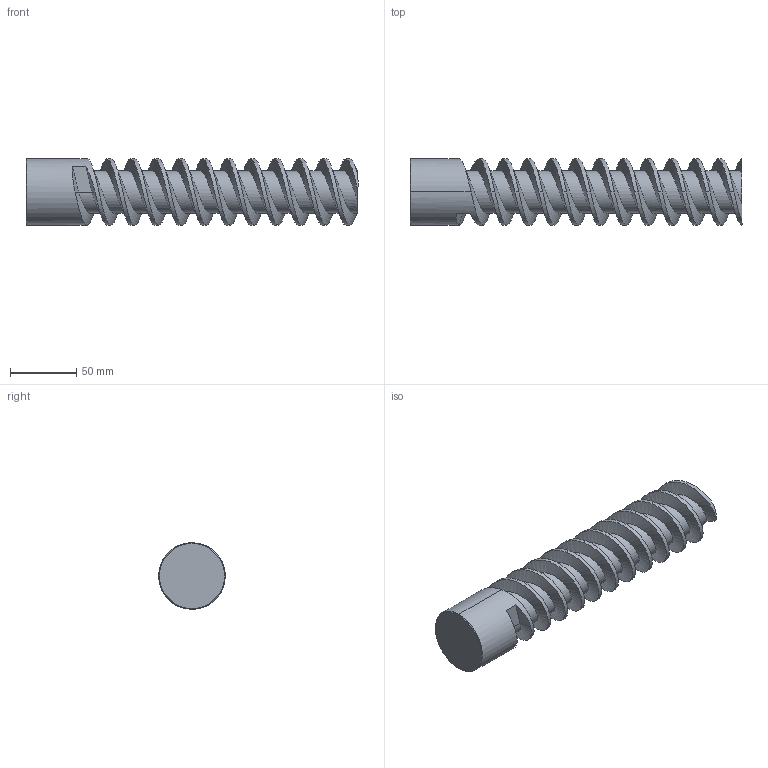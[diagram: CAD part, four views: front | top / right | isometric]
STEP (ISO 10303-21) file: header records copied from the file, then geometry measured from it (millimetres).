
FILE_DESCRIPTION (( 'STEP AP214' ), '1' );
FILE_NAME ('E2122_50_250.STEP', '2013-04-10T07:13:47', ( '' ), ( '' ), 'SwSTEP 2.0', 'SolidWorks 2013', '' );
FILE_SCHEMA (( 'AUTOMOTIVE_DESIGN' ));
Length unit declared in the file: millimetre
Products named in the file (1): E2122_50_250
Bounding box: 250 x 50 x 50 mm (x, y, z)
Volume: 318973.1 mm3; surface area: 55824.6 mm2
Topology: 1 solids, 1 shells, 40 faces, 108 edges, 70 vertices
Faces by surface type: cylinder 24, plane 8, bspline 6, cone 2
Entity records: 8500 total; most frequent: CARTESIAN_POINT 7225, ORIENTED_EDGE 216, DIRECTION 120, EDGE_CURVE 108, VERTEX_POINT 70, UNCERTAINTY_MEASURE_WITH_UNIT 43, STYLED_ITEM 42, SURFACE_STYLE_FILL_AREA 42
